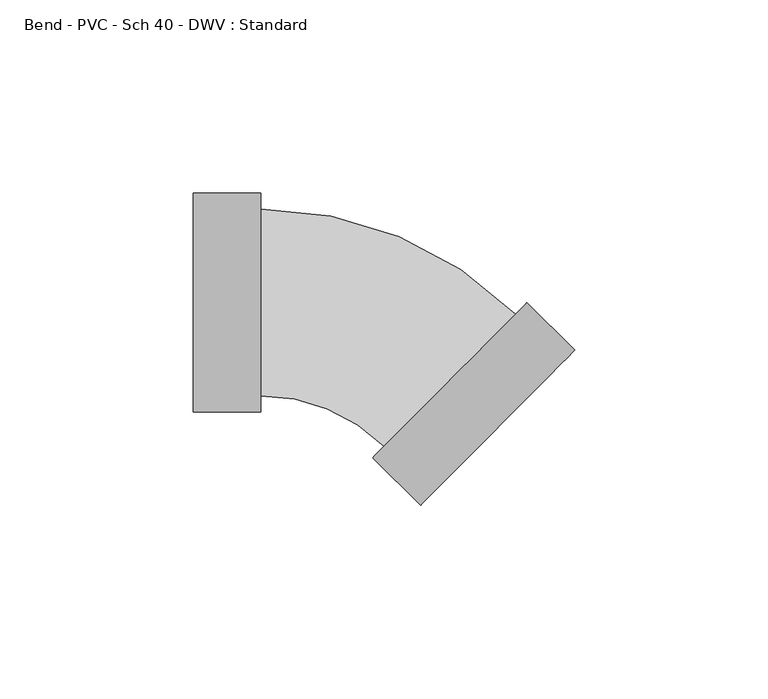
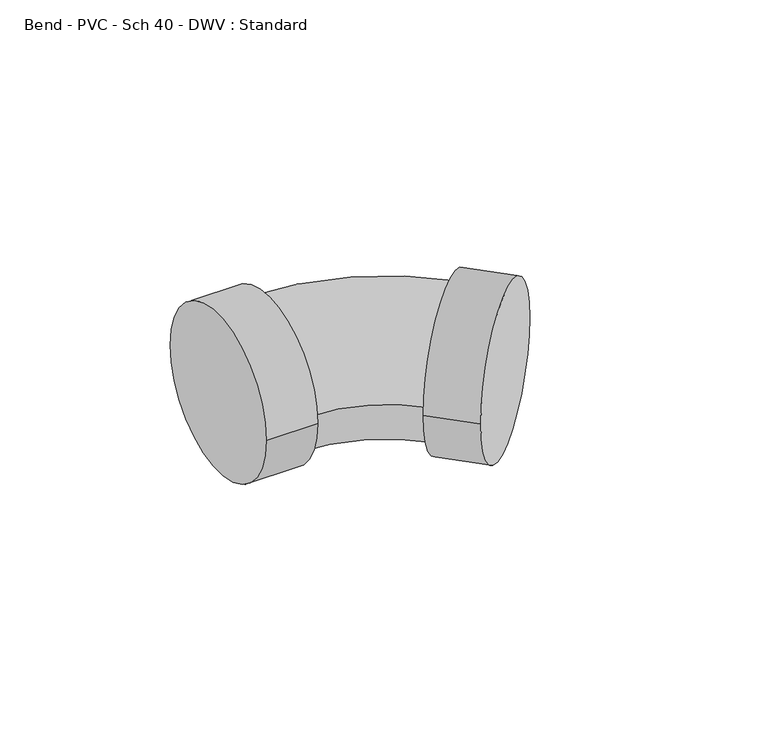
"""IFC4 building model written with IfcOpenShell, lengths in millimetres: pipe fitting geometry, Bend - PVC - Sch 40 - DWV : Standard."""

import ifcopenshell
import ifcopenshell.guid

model = None  # the IFC model being written
_history = None  # IfcOwnerHistory: only IFC2X3 demands one
_inside = {}  # id of a spatial element -> (the spatial element, [elements in it])
_under = {}  # id of a project, library or spatial element -> (it, [spatial elements below it])
_declared = {}  # id of a project -> (the project, [libraries it declares])
_typed = {}  # id of a type object -> (the type object, [elements of that type])
_made_of = {}  # id of a material, layer set ... -> (it, [elements and type objects made of it])


def new_model(schema):
    """Start an empty IFC model of exactly this schema.

    Asked for "IFC4X3", IfcOpenShell would pick the latest addendum, in which some entities
    have other attributes; the version numbers below select the first issue.
    IFC2X3 requires an IfcOwnerHistory on every rooted entity: one is made here for all.
    """
    global model, _history
    if schema == "IFC4X3":
        model = ifcopenshell.file(schema_version=(4, 3, 0, 0))
    else:
        model = ifcopenshell.file(schema=schema)
    _inside.clear()
    _under.clear()
    _declared.clear()
    _typed.clear()
    _made_of.clear()
    _history = None
    if model.schema == "IFC2X3":
        org = make("IfcOrganization", Name="unknown")
        user = make(
            "IfcPersonAndOrganization",
            ThePerson=make("IfcPerson", FamilyName="unknown"),
            TheOrganization=org,
        )
        app = make(
            "IfcApplication",
            ApplicationDeveloper=org,
            Version="unknown",
            ApplicationFullName="unknown",
            ApplicationIdentifier="unknown",
        )
        _history = make(
            "IfcOwnerHistory",
            OwningUser=user,
            OwningApplication=app,
            ChangeAction="ADDED",
            CreationDate=0,
        )
    return model


def make(cls, **values):
    """One entity of the class cls with the attributes given. An attribute that is None is left unset."""
    return model.create_entity(
        cls, **{name: value for name, value in values.items() if value is not None}
    )


def rooted(cls, **values):
    """An entity with a GlobalId (a new one), such as an element, a storey or a relation."""
    return make(cls, GlobalId=ifcopenshell.guid.new(), OwnerHistory=_history, **values)


def si_unit(unit_type, name, prefix=None):
    """IfcSIUnit, for example si_unit("LENGTHUNIT", "METRE", prefix="MILLI")."""
    return make("IfcSIUnit", UnitType=unit_type, Prefix=prefix, Name=name)


def assignment(units):
    """IfcUnitAssignment: the units of a project."""
    return None if units is None else make("IfcUnitAssignment", Units=units)


def point(xyz):
    """IfcCartesianPoint."""
    return None if xyz is None else make("IfcCartesianPoint", Coordinates=xyz)


def direction(xyz):
    """IfcDirection."""
    return None if xyz is None else make("IfcDirection", DirectionRatios=xyz)


def frame(location, z_axis=None, x_axis=None):
    """IfcAxis2Placement3D, a coordinate frame: its origin and axes. An axis left out is left unset."""
    return make(
        "IfcAxis2Placement3D",
        Location=point(location),
        Axis=direction(z_axis),
        RefDirection=direction(x_axis),
    )


def origin():
    """The frame at (0, 0, 0) with its axes left unset."""
    return frame((0.0, 0.0, 0.0))


def place(relative_to, where):
    """IfcLocalPlacement: puts the frame where relative to a parent placement (None: the world)."""
    return make(
        "IfcLocalPlacement", PlacementRelTo=relative_to, RelativePlacement=where
    )


def context(
    kind, dimensions, precision=None, world=None, true_north=None, identifier=None
):
    """IfcGeometricRepresentationContext, for example the 3D "Model" context."""
    return make(
        "IfcGeometricRepresentationContext",
        ContextIdentifier=identifier,
        ContextType=kind,
        CoordinateSpaceDimension=dimensions,
        Precision=precision,
        WorldCoordinateSystem=world,
        TrueNorth=true_north,
    )


def project(units=None, contexts=None):
    """IfcProject with its units and contexts."""
    return rooted(
        "IfcProject",
        Name="project",
        RepresentationContexts=contexts,
        UnitsInContext=assignment(units),
    )


def spatial(cls, under=None, at=None, **own):
    """A site, building, storey or space (cls), placed at a placement, below another one or the project."""
    s = rooted(cls, ObjectPlacement=at, **own)
    if under is not None:
        _under.setdefault(under.id(), (under, []))[1].append(s)
    return s


def circle_curve(where, radius):
    """IfcCircle in the frame where."""
    return make("IfcCircle", Position=where, Radius=radius)


def ellipse_curve(where, semi_axis1, semi_axis2):
    """IfcEllipse in the frame where."""
    return make(
        "IfcEllipse", Position=where, SemiAxis1=semi_axis1, SemiAxis2=semi_axis2
    )


def trimmed(basis, trim1, trim2, sense, master):
    """IfcTrimmedCurve: the piece of a basis curve between two trims."""
    return make(
        "IfcTrimmedCurve",
        BasisCurve=basis,
        Trim1=trim1,
        Trim2=trim2,
        SenseAgreement=sense,
        MasterRepresentation=master,
    )


def shape(context_of_items, identifier, shape_type, items):
    """IfcShapeRepresentation: the items that make up one representation, for example the "Body"."""
    return make(
        "IfcShapeRepresentation",
        ContextOfItems=context_of_items,
        RepresentationIdentifier=identifier,
        RepresentationType=shape_type,
        Items=items,
    )


def source(mapping_origin, context_of_items, identifier, shape_type, items):
    """IfcRepresentationMap: a shape defined once, which mapped items show again and again."""
    return make(
        "IfcRepresentationMap",
        MappingOrigin=mapping_origin,
        MappedRepresentation=shape(context_of_items, identifier, shape_type, items),
    )


def transform(
    local_origin,
    x_axis=None,
    y_axis=None,
    z_axis=None,
    scale=None,
    scale2=None,
    scale3=None,
    uniform=True,
):
    """IfcCartesianTransformationOperator3D, or its non-uniform kind. x_axis, y_axis, z_axis: its Axis1, 2, 3."""
    if uniform:
        return make(
            "IfcCartesianTransformationOperator3D",
            Axis1=direction(x_axis),
            Axis2=direction(y_axis),
            LocalOrigin=point(local_origin),
            Scale=scale,
            Axis3=direction(z_axis),
        )
    return make(
        "IfcCartesianTransformationOperator3DnonUniform",
        Axis1=direction(x_axis),
        Axis2=direction(y_axis),
        LocalOrigin=point(local_origin),
        Scale=scale,
        Axis3=direction(z_axis),
        Scale2=scale2,
        Scale3=scale3,
    )


def mapped(mapping_source, mapping_target):
    """IfcMappedItem: shows the shape of a source again, moved by a transform."""
    return make(
        "IfcMappedItem", MappingSource=mapping_source, MappingTarget=mapping_target
    )


def made_of(thing, what):
    """Note that an element or type object is made of a material, layer set ...; save() writes the relation."""
    if what is not None:
        _made_of.setdefault(what.id(), (what, []))[1].append(thing)
    return thing


def element(
    cls,
    number,
    at=None,
    inside=None,
    cuts=None,
    type_object=None,
    material=None,
    context=None,
    identifier="Body",
    shape_type=None,
    held_by="IfcProductDefinitionShape",
    body=None,
    shapes=None,
    **own,
):
    """One element of the class cls, such as IfcWall. Its Tag is "e" and its number.

    at: its placement. inside: the storey or other place that contains it. cuts: it is an
    opening in that element (IfcRelVoidsElement). A single representation is given by context,
    identifier, shape_type and body (its items); several are given by shapes. held_by: the class
    of the entity that holds the representations. save() writes the other relations.
    """
    e = rooted(cls, Tag="e%d" % number, ObjectPlacement=at, **own)
    if body is not None:
        shapes = [shape(context, identifier, shape_type, body)]
    if shapes is not None:
        e.Representation = make(held_by, Representations=shapes)
    if inside is not None:
        _inside.setdefault(inside.id(), (inside, []))[1].append(e)
    if cuts is not None:
        rooted(
            "IfcRelVoidsElement", RelatingBuildingElement=cuts, RelatedOpeningElement=e
        )
    if type_object is not None:
        _typed.setdefault(type_object.id(), (type_object, []))[1].append(e)
    return made_of(e, material)


def aggregate(whole, parts):
    """IfcRelAggregates: a whole, such as a stair, and the parts it consists of."""
    return rooted("IfcRelAggregates", RelatingObject=whole, RelatedObjects=parts)


def save(model, path):
    """Write the relations noted so far, then the file.

    IfcRelAggregates (storeys below a building ...), IfcRelContainedInSpatialStructure (elements
    in a storey), IfcRelDefinesByType, IfcRelAssociatesMaterial and IfcRelDeclares: one each for
    every whole, place, type object, material and project.
    """
    for whole, parts in _under.values():
        aggregate(whole, parts)
    for where, things in _inside.values():
        rooted(
            "IfcRelContainedInSpatialStructure",
            RelatedElements=things,
            RelatingStructure=where,
        )
    for kind, things in _typed.values():
        rooted("IfcRelDefinesByType", RelatedObjects=things, RelatingType=kind)
    for what, things in _made_of.values():
        rooted("IfcRelAssociatesMaterial", RelatedObjects=things, RelatingMaterial=what)
    for by, libraries in _declared.values():
        rooted("IfcRelDeclares", RelatingContext=by, RelatedDefinitions=libraries)
    model.write(path)


def plane_surface(at):
    """IfcPlane: the flat surface through the origin of the frame at, square to its z axis."""
    return make("IfcPlane", Position=at)


def cylinder_surface(at, radius):
    """IfcCylindricalSurface: all points at the distance radius from the z axis of the frame at."""
    return make("IfcCylindricalSurface", Position=at, Radius=radius)


def revolved_surface(curve, axis_point, axis_direction):
    """IfcSurfaceOfRevolution: the curve turned about the line through axis_point along axis_direction."""
    return make(
        "IfcSurfaceOfRevolution",
        SweptCurve=make("IfcArbitraryOpenProfileDef", ProfileType="CURVE", Curve=curve),
        AxisPosition=make("IfcAxis1Placement", Location=point(axis_point), Axis=direction(axis_direction)),
    )


def advanced_brep(points, edges, surfaces, faces):
    """IfcAdvancedBrep: a solid bounded by faces that lie on surfaces and meet in shared edges.

    An edge is (start, end): straight between two places in points (the first is 0);
    or (start, end, curve); or (start, end, curve, False) where it runs against its curve.
    A face is (place in surfaces, loops), or (place, loops, False) where it looks against
    its surface's normal. A loop lists edges by number (the first is 1), with a minus sign
    where the edge is run from its end to its start. The first loop is the outer one.
    """
    corners = [point(p) for p in points]
    vertices = [make("IfcVertexPoint", VertexGeometry=c) for c in corners]
    made = []
    for start, end, *more in edges:
        made.append(
            make(
                "IfcEdgeCurve",
                EdgeStart=vertices[start],
                EdgeEnd=vertices[end],
                EdgeGeometry=more[0] if more else make("IfcPolyline", Points=[corners[start], corners[end]]),
                SameSense=more[1] if len(more) > 1 else True,
            )
        )
    hull = []
    for where, loops, *sense in faces:
        bounds = []
        for j, loop in enumerate(loops):
            ring = [make("IfcOrientedEdge", EdgeElement=made[abs(k) - 1], Orientation=k > 0) for k in loop]
            bounds.append(
                make(
                    "IfcFaceOuterBound" if j == 0 else "IfcFaceBound",
                    Bound=make("IfcEdgeLoop", EdgeList=ring),
                    Orientation=True,
                )
            )
        hull.append(make("IfcAdvancedFace", Bounds=bounds, FaceSurface=surfaces[where], SameSense=sense[0] if sense else True))
    return make("IfcAdvancedBrep", Outer=make("IfcClosedShell", CfsFaces=hull))


def bend_pvc_sch_40_dwv_standard_9a61ab34(model_context):
    return source(origin(), model_context, "Body", "AdvancedBrep", [
        advanced_brep(
        [(-46.0248, 28.2829, 0.0), (-46.0248, -28.2829, 0.0), (-28.575, 28.2829, 0.0), (-28.575, -28.2829, 0.0), (-28.575, 24.13, 0.0), (-28.575, -24.13, 0.0), (3.2900578, -37.255376, 0.0), (37.28017, -2.9960726, 0.0), (40.2051086, -0.0479694, 0.0), (0.3651192, -40.2034793, 0.0), (52.5925515, -12.3380783, 0.0), (12.7525621, -52.4935882, 0.0)],
        [
            (0, 1, circle_curve(frame((-46.0248, 0.0, 0.0), z_axis=(-1.0, 0.0, 0.0), x_axis=(0.0, -1.0, 0.0)), 28.2829)),
            (1, 0, circle_curve(frame((-46.0248, 0.0, 0.0), z_axis=(-1.0, 0.0, 0.0), x_axis=(0.0, -1.0, 0.0)), 28.2829)),
            (2, 3, circle_curve(frame((-28.575, 0.0, 0.0), z_axis=(1.0, 0.0, 0.0), x_axis=(0.0, -1.0, 0.0)), 28.2829)),
            (3, 2, circle_curve(frame((-28.575, 0.0, 0.0), z_axis=(1.0, 0.0, 0.0), x_axis=(0.0, -1.0, 0.0)), 28.2829)),
            (4, 5, circle_curve(frame((-28.575, 0.0, 0.0), z_axis=(-1.0, 0.0, 0.0), x_axis=(0.0, -1.0, 0.0)), 24.13)),
            (5, 4, circle_curve(frame((-28.575, 0.0, 0.0), z_axis=(-1.0, 0.0, 0.0), x_axis=(0.0, -1.0, 0.0)), 24.13)),
            (1, 3),
            (2, 0),
            (6, 7, circle_curve(frame((20.2851139, -20.1257243, 0.0), z_axis=(-0.7098902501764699, 0.7043123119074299, 0.0), x_axis=(-0.7043123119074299, -0.7098902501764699, 0.0)), 24.13)),
            (7, 4, circle_curve(frame((-28.575, -69.3727954, 0.0), z_axis=(0.0, 0.0, 1.0), x_axis=(0.0, 1.0, 0.0)), 93.5027954)),
            (5, 6, circle_curve(frame((-28.575, -69.3727954, 0.0), z_axis=(0.0, 0.0, -1.0), x_axis=(0.0, 1.0, 0.0)), 45.2427954)),
            (7, 6, circle_curve(frame((20.2851139, -20.1257243, 0.0), z_axis=(-0.7098902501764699, 0.7043123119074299, 0.0), x_axis=(-0.7043123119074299, -0.7098902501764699, 0.0)), 24.13)),
            (8, 9, circle_curve(frame((20.2851139, -20.1257243, 0.0), z_axis=(-0.709890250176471, 0.7043123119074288, 0.0), x_axis=(-0.7043123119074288, -0.709890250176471, 0.0)), 28.2829)),
            (9, 8, circle_curve(frame((20.2851139, -20.1257243, 0.0), z_axis=(-0.709890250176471, 0.7043123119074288, 0.0), x_axis=(-0.7043123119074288, -0.709890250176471, 0.0)), 28.2829)),
            (10, 11, circle_curve(frame((32.6725568, -32.4158333, 0.0), z_axis=(0.709890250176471, -0.7043123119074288, 0.0), x_axis=(-0.7043123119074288, -0.709890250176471, 0.0)), 28.2829)),
            (11, 10, circle_curve(frame((32.6725568, -32.4158333, 0.0), z_axis=(0.709890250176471, -0.7043123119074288, 0.0), x_axis=(-0.7043123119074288, -0.709890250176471, 0.0)), 28.2829)),
            (9, 11),
            (10, 8),
        ],
        [
            plane_surface(frame((-46.0248, 0.0, 0.0), z_axis=(-1.0, 0.0, 0.0), x_axis=(0.0, 0.0, 1.0))),
            plane_surface(frame((-28.575, 0.0, 0.0), z_axis=(1.0, 0.0, 0.0), x_axis=(0.0, 0.0, 1.0))),
            cylinder_surface(frame((-46.0248, 0.0, 0.0), z_axis=(-1.0, 0.0, 0.0), x_axis=(0.0, -1.0, 0.0)), 28.2829),
            revolved_surface(trimmed(ellipse_curve(frame((-28.575, 0.0, 0.0), z_axis=(1.0, 0.0, 0.0), x_axis=(0.0, -1.0, 0.0)), 24.13, 24.13), [point((-28.575, 24.13, 0.0))], [point((-28.575, -24.13, 0.0))], True, "CARTESIAN"), (-28.575, -69.3727954, 0.0), (0.0, 0.0, 1.0)),
            revolved_surface(trimmed(ellipse_curve(frame((-28.575, 0.0, 0.0), z_axis=(1.0, 0.0, 0.0), x_axis=(0.0, -1.0, 0.0)), 24.13, 24.13), [point((-28.575, -24.13, 0.0))], [point((-28.575, 24.13, 0.0))], True, "CARTESIAN"), (-28.575, -69.3727954, 0.0), (0.0, 0.0, 1.0)),
            plane_surface(frame((20.2851139, -20.1257243, 0.0), z_axis=(-0.709890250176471, 0.7043123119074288, 0.0), x_axis=(0.0, 0.0, 1.0))),
            plane_surface(frame((32.6725568, -32.4158333, 0.0), z_axis=(0.709890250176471, -0.7043123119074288, 0.0), x_axis=(0.0, 0.0, 1.0))),
            cylinder_surface(frame((20.2851139, -20.1257243, 0.0), z_axis=(-0.709890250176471, 0.7043123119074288, 0.0), x_axis=(-0.7043123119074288, -0.709890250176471, 0.0)), 28.2829),
        ],
        [
            (0, [[1, 2]]),
            (1, [[3, 4], [5, 6]]),
            (2, [[7, -3, 8, -2]]),
            (2, [[-8, -4, -7, -1]]),
            (3, [[9, 10, -6, 11]]),
            (4, [[-5, -10, 12, -11]]),
            (5, [[13, 14], [-12, -9]]),
            (6, [[15, 16]]),
            (7, [[17, -15, 18, -14]]),
            (7, [[-18, -16, -17, -13]]),
        ],
    ),
    ])


if __name__ == "__main__":
    model = new_model("IFC4")
    model_context = context("Model", 3, world=origin())
    ifc_project = project(units=[si_unit("LENGTHUNIT", "METRE", prefix="MILLI")], contexts=[model_context])
    site = spatial("IfcSite", under=ifc_project)
    building = spatial("IfcBuilding", under=site)
    placement = place(None, origin())
    bend_pvc_sch_40_dwv_standard_shape = bend_pvc_sch_40_dwv_standard_9a61ab34(model_context)
    element("IfcPipeFitting", 1, ObjectType="Bend - PVC - Sch 40 - DWV : Standard", at=placement, inside=building, context=model_context, shape_type="MappedRepresentation", body=[
        mapped(bend_pvc_sch_40_dwv_standard_shape, transform((0.0, 0.0, 0.0), x_axis=(1.0, 0.0, 0.0), y_axis=(0.0, 1.0, 0.0), z_axis=(0.0, 0.0, 1.0))),
    ])
    save(model, "model.ifc")
